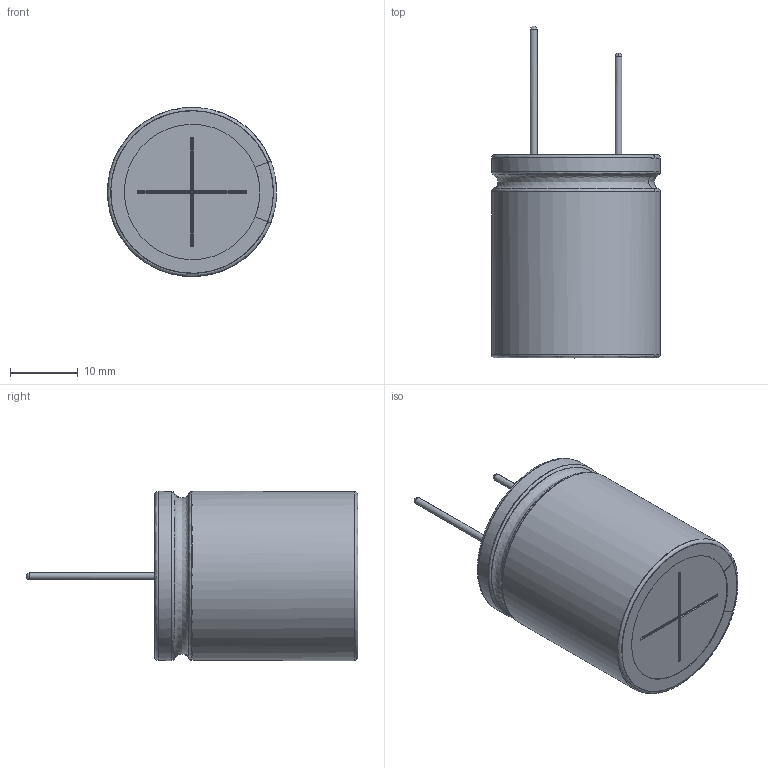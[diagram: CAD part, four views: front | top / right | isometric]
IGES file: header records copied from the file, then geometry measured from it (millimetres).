
Start section: JAMA-IS VERSION  1.0
Bounding box: 24.95 x 49 x 24.97 mm (x, y, z)
Surface area: 8873.1 mm2 (no closed solid volume)
Topology: 0 solids, 0 shells, 100 faces, 1480 edges, 1460 vertices
Faces by surface type: bspline 100
